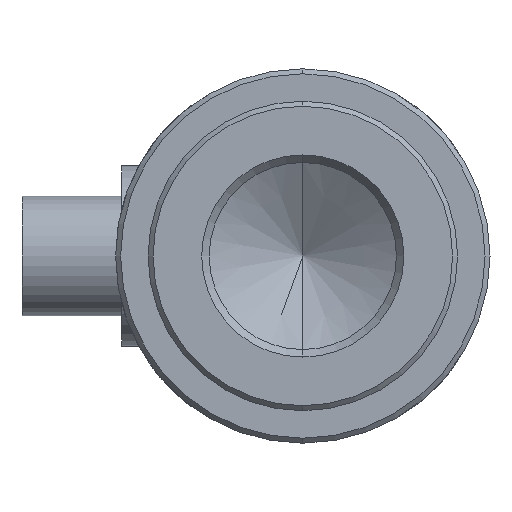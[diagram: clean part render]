
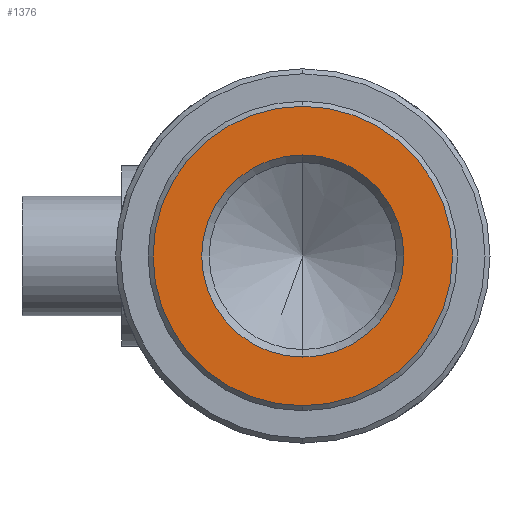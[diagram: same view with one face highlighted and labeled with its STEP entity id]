
A CAD part, front view. The second image highlights one B-rep face of the part: STEP entity #1376.
In plain terms, the highlighted planar face has unit normal (0, -1, 0).
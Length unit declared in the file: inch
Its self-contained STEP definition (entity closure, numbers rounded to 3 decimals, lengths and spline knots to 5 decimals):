
#99 = EDGE_CURVE ( 'NONE', #332, #343, #923, .T. ) ;
#147 = EDGE_CURVE ( 'NONE', #343, #332, #618, .T. ) ;
#159 = EDGE_CURVE ( 'NONE', #296, #295, #617, .T. ) ;
#178 = AXIS2_PLACEMENT_3D ( 'NONE', #1413, #1443, #1438 ) ;
#181 = AXIS2_PLACEMENT_3D ( 'NONE', #1434, #1417, #1435 ) ;
#194 = AXIS2_PLACEMENT_3D ( 'NONE', #1229, #1231, #1232 ) ;
#231 = AXIS2_PLACEMENT_3D ( 'NONE', #478, #477, #509 ) ;
#236 = AXIS2_PLACEMENT_3D ( 'NONE', #971, #936, #940 ) ;
#295 = VERTEX_POINT ( 'NONE', #441 ) ;
#296 = VERTEX_POINT ( 'NONE', #430 ) ;
#332 = VERTEX_POINT ( 'NONE', #432 ) ;
#343 = VERTEX_POINT ( 'NONE', #464 ) ;
#355 = EDGE_CURVE ( 'NONE', #295, #296, #657, .T. ) ;
#430 = CARTESIAN_POINT ( 'NONE',  ( 0., -0.04, -0.6 ) ) ;
#432 = CARTESIAN_POINT ( 'NONE',  ( 0., -0.04, 0.405 ) ) ;
#441 = CARTESIAN_POINT ( 'NONE',  ( 0., -0.04, 0.6 ) ) ;
#464 = CARTESIAN_POINT ( 'NONE',  ( 0., -0.04, -0.405 ) ) ;
#477 = DIRECTION ( 'NONE',  ( 0., -1., 0. ) ) ;
#478 = CARTESIAN_POINT ( 'NONE',  ( 0., -0.04, 0. ) ) ;
#509 = DIRECTION ( 'NONE',  ( 0., 0., -1. ) ) ;
#617 = CIRCLE ( 'NONE', #181, 0.6 ) ;
#618 = CIRCLE ( 'NONE', #178, 0.405 ) ;
#657 = CIRCLE ( 'NONE', #231, 0.6 ) ;
#705 = FACE_BOUND ( 'NONE', #753, .T. ) ;
#706 = FACE_OUTER_BOUND ( 'NONE', #762, .T. ) ;
#753 = EDGE_LOOP ( 'NONE', ( #825, #824 ) ) ;
#762 = EDGE_LOOP ( 'NONE', ( #843, #895 ) ) ;
#824 = ORIENTED_EDGE ( 'NONE', *, *, #99, .F. ) ;
#825 = ORIENTED_EDGE ( 'NONE', *, *, #147, .F. ) ;
#843 = ORIENTED_EDGE ( 'NONE', *, *, #355, .T. ) ;
#895 = ORIENTED_EDGE ( 'NONE', *, *, #159, .T. ) ;
#923 = CIRCLE ( 'NONE', #194, 0.405 ) ;
#936 = DIRECTION ( 'NONE',  ( 0., -1., 0. ) ) ;
#940 = DIRECTION ( 'NONE',  ( 0., 0., -1. ) ) ;
#943 = PLANE ( 'NONE',  #236 ) ;
#971 = CARTESIAN_POINT ( 'NONE',  ( 0., -0.04, 0. ) ) ;
#1229 = CARTESIAN_POINT ( 'NONE',  ( 0., -0.04, 0. ) ) ;
#1231 = DIRECTION ( 'NONE',  ( 0., -1., 0. ) ) ;
#1232 = DIRECTION ( 'NONE',  ( 0., 0., -1. ) ) ;
#1376 = ADVANCED_FACE ( 'NONE', ( #705, #706 ), #943, .T. ) ;
#1413 = CARTESIAN_POINT ( 'NONE',  ( 0., -0.04, 0. ) ) ;
#1417 = DIRECTION ( 'NONE',  ( 0., -1., 0. ) ) ;
#1434 = CARTESIAN_POINT ( 'NONE',  ( 0., -0.04, 0. ) ) ;
#1435 = DIRECTION ( 'NONE',  ( 0., 0., -1. ) ) ;
#1438 = DIRECTION ( 'NONE',  ( 0., 0., -1. ) ) ;
#1443 = DIRECTION ( 'NONE',  ( 0., -1., 0. ) ) ;
